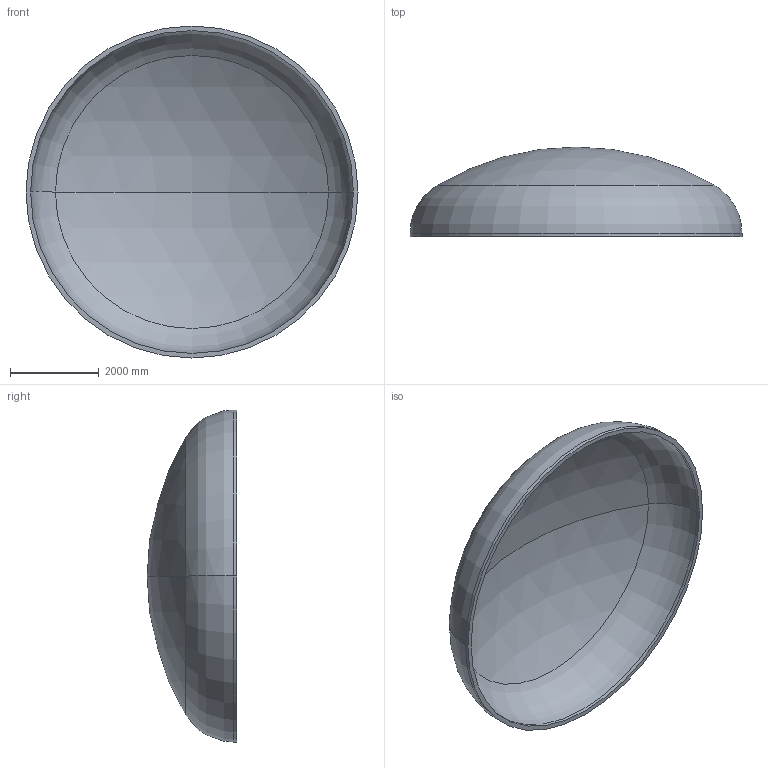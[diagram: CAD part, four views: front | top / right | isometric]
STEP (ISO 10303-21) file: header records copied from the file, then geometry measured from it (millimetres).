
FILE_DESCRIPTION (( 'STEP AP203' ), '1' );
FILE_NAME ('DIN 28013 Korbbogenform_-_Boden DIN 28013 - 7500 x 75 - I - s=104.step', '2016-07-04T10:57:10', ( '' ), ( '' ), 'SwSTEP 2.0', 'SolidWorks 2013', '' );
FILE_SCHEMA (( 'CONFIG_CONTROL_DESIGN' ));
Length unit declared in the file: millimetre
Products named in the file (1): DIN 28013 Korbbogenform_-_Boden DIN 28013 - 7500 x 75 - I - s=104
Bounding box: 7500 x 2023.41 x 7500 mm (x, y, z)
Volume: 6429131461 mm3; surface area: 126076211.6 mm2
Topology: 1 solids, 1 shells, 13 faces, 24 edges, 14 vertices
Faces by surface type: torus 4, cylinder 4, sphere 4, plane 1
Entity records: 407 total; most frequent: DIRECTION 72, CARTESIAN_POINT 52, ORIENTED_EDGE 48, AXIS2_PLACEMENT_3D 34, EDGE_CURVE 24, CIRCLE 20, VERTEX_POINT 14, EDGE_LOOP 14
